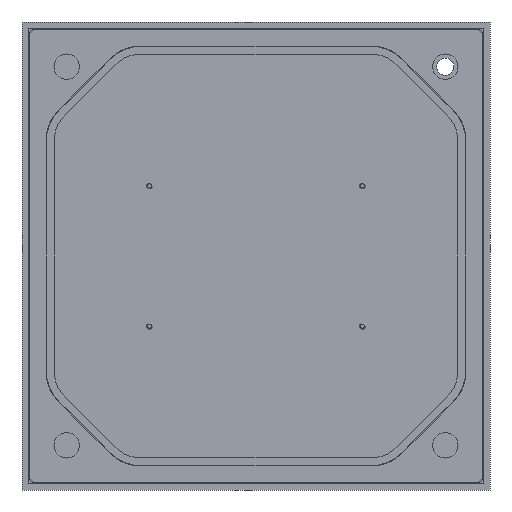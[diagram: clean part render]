
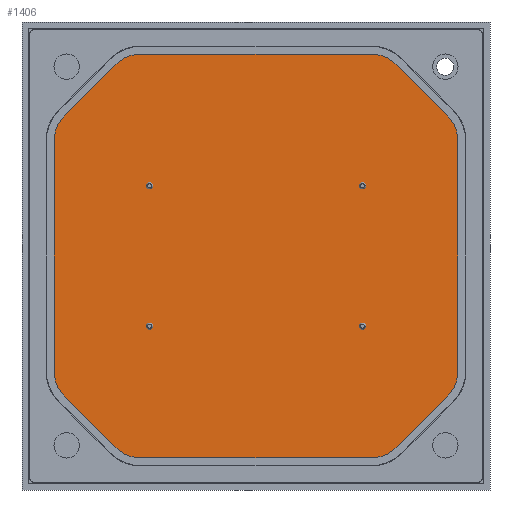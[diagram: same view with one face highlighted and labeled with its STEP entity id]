
A CAD part, front view. The second image highlights one B-rep face of the part: STEP entity #1406.
In plain terms, the highlighted planar face has unit normal (0, -1, 0).
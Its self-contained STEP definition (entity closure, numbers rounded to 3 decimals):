
#469=CARTESIAN_POINT('',(39.25,-2.8,-27.108));
#470=DIRECTION('',(0.,-1.,0.));
#471=DIRECTION('',(0.707,0.,-0.707));
#472=AXIS2_PLACEMENT_3D('',#469,#470,#471);
#478=DIRECTION('',(-0.707,0.,-0.707));
#479=VECTOR('',#478,17.172);
#480=CARTESIAN_POINT('',(45.048,-2.8,-32.906));
#481=LINE('',#480,#479);
#486=CARTESIAN_POINT('',(27.108,-2.8,-39.25));
#487=DIRECTION('',(0.,-1.,0.));
#488=DIRECTION('',(0.,0.,-1.));
#489=AXIS2_PLACEMENT_3D('',#486,#487,#488);
#495=DIRECTION('',(-1.,0.,0.));
#496=VECTOR('',#495,54.216);
#497=CARTESIAN_POINT('',(27.108,-2.8,-47.45));
#498=LINE('',#497,#496);
#503=CARTESIAN_POINT('',(-27.108,-2.8,-39.25));
#504=DIRECTION('',(0.,-1.,0.));
#505=DIRECTION('',(-0.707,0.,-0.707));
#506=AXIS2_PLACEMENT_3D('',#503,#504,#505);
#512=DIRECTION('',(-0.707,0.,0.707));
#513=VECTOR('',#512,17.172);
#514=CARTESIAN_POINT('',(-32.906,-2.8,-45.048));
#515=LINE('',#514,#513);
#520=CARTESIAN_POINT('',(-39.25,-2.8,-27.108));
#521=DIRECTION('',(0.,-1.,0.));
#522=DIRECTION('',(-1.,0.,0.));
#523=AXIS2_PLACEMENT_3D('',#520,#521,#522);
#529=DIRECTION('',(0.,0.,1.));
#530=VECTOR('',#529,54.216);
#531=CARTESIAN_POINT('',(-47.45,-2.8,-27.108));
#532=LINE('',#531,#530);
#537=CARTESIAN_POINT('',(-39.25,-2.8,27.108));
#538=DIRECTION('',(0.,-1.,0.));
#539=DIRECTION('',(-0.707,0.,0.707));
#540=AXIS2_PLACEMENT_3D('',#537,#538,#539);
#546=DIRECTION('',(0.707,0.,0.707));
#547=VECTOR('',#546,17.172);
#548=CARTESIAN_POINT('',(-45.048,-2.8,32.906));
#549=LINE('',#548,#547);
#554=CARTESIAN_POINT('',(-27.108,-2.8,39.25));
#555=DIRECTION('',(0.,-1.,0.));
#556=DIRECTION('',(0.,0.,1.));
#557=AXIS2_PLACEMENT_3D('',#554,#555,#556);
#563=DIRECTION('',(1.,0.,0.));
#564=VECTOR('',#563,54.216);
#565=CARTESIAN_POINT('',(-27.108,-2.8,47.45));
#566=LINE('',#565,#564);
#571=CARTESIAN_POINT('',(27.108,-2.8,39.25));
#572=DIRECTION('',(0.,-1.,0.));
#573=DIRECTION('',(0.707,0.,0.707));
#574=AXIS2_PLACEMENT_3D('',#571,#572,#573);
#580=DIRECTION('',(0.707,0.,-0.707));
#581=VECTOR('',#580,17.172);
#582=CARTESIAN_POINT('',(32.906,-2.8,45.048));
#583=LINE('',#582,#581);
#588=CARTESIAN_POINT('',(39.25,-2.8,27.108));
#589=DIRECTION('',(0.,-1.,0.));
#590=DIRECTION('',(1.,0.,0.));
#591=AXIS2_PLACEMENT_3D('',#588,#589,#590);
#597=DIRECTION('',(0.,0.,-1.));
#598=VECTOR('',#597,54.216);
#599=CARTESIAN_POINT('',(47.45,-2.8,27.108));
#600=LINE('',#599,#598);
#725=CARTESIAN_POINT('',(45.048,-2.8,-32.906));
#726=CARTESIAN_POINT('',(32.906,-2.8,-45.048));
#727=VERTEX_POINT('',#725);
#728=VERTEX_POINT('',#726);
#729=CARTESIAN_POINT('',(27.108,-2.8,-47.45));
#730=CARTESIAN_POINT('',(-27.108,-2.8,-47.45));
#731=VERTEX_POINT('',#729);
#732=VERTEX_POINT('',#730);
#733=CARTESIAN_POINT('',(-32.906,-2.8,-45.048));
#734=CARTESIAN_POINT('',(-45.048,-2.8,-32.906));
#735=VERTEX_POINT('',#733);
#736=VERTEX_POINT('',#734);
#737=CARTESIAN_POINT('',(-47.45,-2.8,-27.108));
#738=CARTESIAN_POINT('',(-47.45,-2.8,27.108));
#739=VERTEX_POINT('',#737);
#740=VERTEX_POINT('',#738);
#741=CARTESIAN_POINT('',(-45.048,-2.8,32.906));
#742=CARTESIAN_POINT('',(-32.906,-2.8,45.048));
#743=VERTEX_POINT('',#741);
#744=VERTEX_POINT('',#742);
#745=CARTESIAN_POINT('',(-27.108,-2.8,47.45));
#746=CARTESIAN_POINT('',(27.108,-2.8,47.45));
#747=VERTEX_POINT('',#745);
#748=VERTEX_POINT('',#746);
#749=CARTESIAN_POINT('',(32.906,-2.8,45.048));
#750=CARTESIAN_POINT('',(45.048,-2.8,32.906));
#751=VERTEX_POINT('',#749);
#752=VERTEX_POINT('',#750);
#753=CARTESIAN_POINT('',(47.45,-2.8,27.108));
#754=CARTESIAN_POINT('',(47.45,-2.8,-27.108));
#755=VERTEX_POINT('',#753);
#756=VERTEX_POINT('',#754);
#1368=CARTESIAN_POINT('',(0.,-2.8,0.));
#1369=DIRECTION('',(0.,-1.,0.));
#1370=DIRECTION('',(-1.,0.,0.));
#1371=AXIS2_PLACEMENT_3D('',#1368,#1369,#1370);
#1372=PLANE('',#1371);
#1374=ORIENTED_EDGE('',*,*,#1373,.T.);
#1376=ORIENTED_EDGE('',*,*,#1375,.F.);
#1378=ORIENTED_EDGE('',*,*,#1377,.T.);
#1380=ORIENTED_EDGE('',*,*,#1379,.F.);
#1382=ORIENTED_EDGE('',*,*,#1381,.T.);
#1384=ORIENTED_EDGE('',*,*,#1383,.F.);
#1386=ORIENTED_EDGE('',*,*,#1385,.T.);
#1388=ORIENTED_EDGE('',*,*,#1387,.F.);
#1390=ORIENTED_EDGE('',*,*,#1389,.T.);
#1392=ORIENTED_EDGE('',*,*,#1391,.F.);
#1394=ORIENTED_EDGE('',*,*,#1393,.T.);
#1396=ORIENTED_EDGE('',*,*,#1395,.F.);
#1398=ORIENTED_EDGE('',*,*,#1397,.T.);
#1400=ORIENTED_EDGE('',*,*,#1399,.F.);
#1402=ORIENTED_EDGE('',*,*,#1401,.T.);
#1403=ORIENTED_EDGE('',*,*,#1358,.F.);
#1404=EDGE_LOOP('',(#1374,#1376,#1378,#1380,#1382,#1384,#1386,#1388,#1390,#1392,
#1394,#1396,#1398,#1400,#1402,#1403));
#1405=FACE_OUTER_BOUND('',#1404,.F.);
#1406=ADVANCED_FACE('',(#1405),#1372,.T.);
#473=CIRCLE('',#472,8.2);
#490=CIRCLE('',#489,8.2);
#507=CIRCLE('',#506,8.2);
#524=CIRCLE('',#523,8.2);
#541=CIRCLE('',#540,8.2);
#558=CIRCLE('',#557,8.2);
#575=CIRCLE('',#574,8.2);
#592=CIRCLE('',#591,8.2);
#1358=EDGE_CURVE('',#727,#756,#473,.T.);
#1373=EDGE_CURVE('',#727,#728,#481,.T.);
#1375=EDGE_CURVE('',#731,#728,#490,.T.);
#1377=EDGE_CURVE('',#731,#732,#498,.T.);
#1379=EDGE_CURVE('',#735,#732,#507,.T.);
#1381=EDGE_CURVE('',#735,#736,#515,.T.);
#1383=EDGE_CURVE('',#739,#736,#524,.T.);
#1385=EDGE_CURVE('',#739,#740,#532,.T.);
#1387=EDGE_CURVE('',#743,#740,#541,.T.);
#1389=EDGE_CURVE('',#743,#744,#549,.T.);
#1391=EDGE_CURVE('',#747,#744,#558,.T.);
#1393=EDGE_CURVE('',#747,#748,#566,.T.);
#1395=EDGE_CURVE('',#751,#748,#575,.T.);
#1397=EDGE_CURVE('',#751,#752,#583,.T.);
#1399=EDGE_CURVE('',#755,#752,#592,.T.);
#1401=EDGE_CURVE('',#755,#756,#600,.T.);
